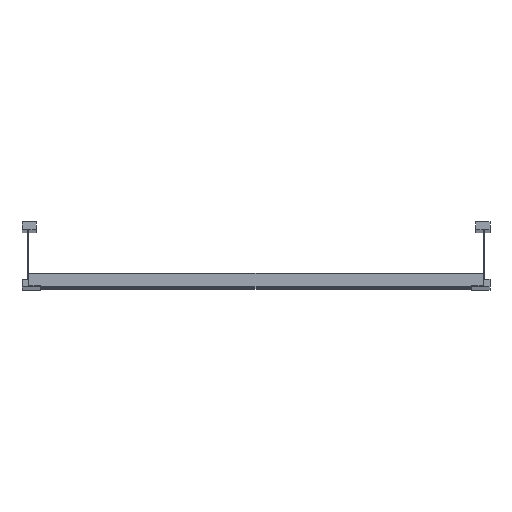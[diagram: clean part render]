
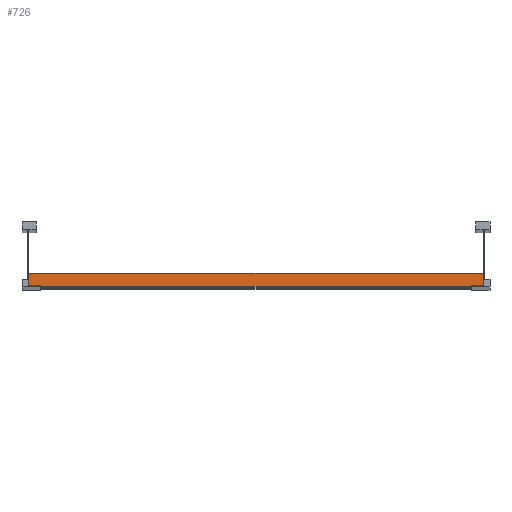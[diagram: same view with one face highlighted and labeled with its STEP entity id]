
A CAD part, top view. The second image highlights one B-rep face of the part: STEP entity #726.
In plain terms, the highlighted planar face has unit normal (0, 0, 1).
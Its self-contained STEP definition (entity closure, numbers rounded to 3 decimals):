
#726 = ADVANCED_FACE ( 'NONE', ( #10627 ), #5925, .F. ) ;
#1521 = DIRECTION ( 'NONE',  ( 0., 1., 0. ) ) ;
#1805 = EDGE_LOOP ( 'NONE', ( #10777, #1992, #6513, #10178 ) ) ;
#1992 = ORIENTED_EDGE ( 'NONE', *, *, #5604, .F. ) ;
#2015 = CARTESIAN_POINT ( 'NONE',  ( -348.5, 20., 20.25 ) ) ;
#2050 = CARTESIAN_POINT ( 'NONE',  ( 348.5, 20., 20.25 ) ) ;
#2187 = LINE ( 'NONE', #2015, #4960 ) ;
#2459 = CARTESIAN_POINT ( 'NONE',  ( 348.5, 20., 20.25 ) ) ;
#2561 = VECTOR ( 'NONE', #9654, 1000. ) ;
#3205 = CARTESIAN_POINT ( 'NONE',  ( 348.5, 20., 20.25 ) ) ;
#3229 = DIRECTION ( 'NONE',  ( 0., 0., -1. ) ) ;
#3747 = VERTEX_POINT ( 'NONE', #9025 ) ;
#4747 = CARTESIAN_POINT ( 'NONE',  ( 348.5, 0., 20.25 ) ) ;
#4960 = VECTOR ( 'NONE', #10012, 1000. ) ;
#5072 = LINE ( 'NONE', #8609, #2561 ) ;
#5272 = CARTESIAN_POINT ( 'NONE',  ( -348.5, 20., 20.25 ) ) ;
#5604 = EDGE_CURVE ( 'NONE', #11611, #3747, #5637, .T. ) ;
#5637 = LINE ( 'NONE', #4747, #6695 ) ;
#5925 = PLANE ( 'NONE',  #5929 ) ;
#5929 = AXIS2_PLACEMENT_3D ( 'NONE', #2459, #3229, #1521 ) ;
#6042 = EDGE_CURVE ( 'NONE', #7763, #9483, #5072, .T. ) ;
#6513 = ORIENTED_EDGE ( 'NONE', *, *, #8347, .F. ) ;
#6695 = VECTOR ( 'NONE', #8340, 1000. ) ;
#7275 = LINE ( 'NONE', #2050, #10842 ) ;
#7763 = VERTEX_POINT ( 'NONE', #3205 ) ;
#8340 = DIRECTION ( 'NONE',  ( -1., 0., 0. ) ) ;
#8347 = EDGE_CURVE ( 'NONE', #7763, #11611, #7275, .T. ) ;
#8609 = CARTESIAN_POINT ( 'NONE',  ( 348.5, 20., 20.25 ) ) ;
#9025 = CARTESIAN_POINT ( 'NONE',  ( -348.5, 0., 20.25 ) ) ;
#9217 = DIRECTION ( 'NONE',  ( 0., -1., 0. ) ) ;
#9483 = VERTEX_POINT ( 'NONE', #5272 ) ;
#9654 = DIRECTION ( 'NONE',  ( -1., 0., 0. ) ) ;
#10012 = DIRECTION ( 'NONE',  ( 0., -1., 0. ) ) ;
#10178 = ORIENTED_EDGE ( 'NONE', *, *, #6042, .T. ) ;
#10506 = EDGE_CURVE ( 'NONE', #9483, #3747, #2187, .T. ) ;
#10627 = FACE_OUTER_BOUND ( 'NONE', #1805, .T. ) ;
#10777 = ORIENTED_EDGE ( 'NONE', *, *, #10506, .T. ) ;
#10782 = CARTESIAN_POINT ( 'NONE',  ( 348.5, 0., 20.25 ) ) ;
#10842 = VECTOR ( 'NONE', #9217, 1000. ) ;
#11611 = VERTEX_POINT ( 'NONE', #10782 ) ;
